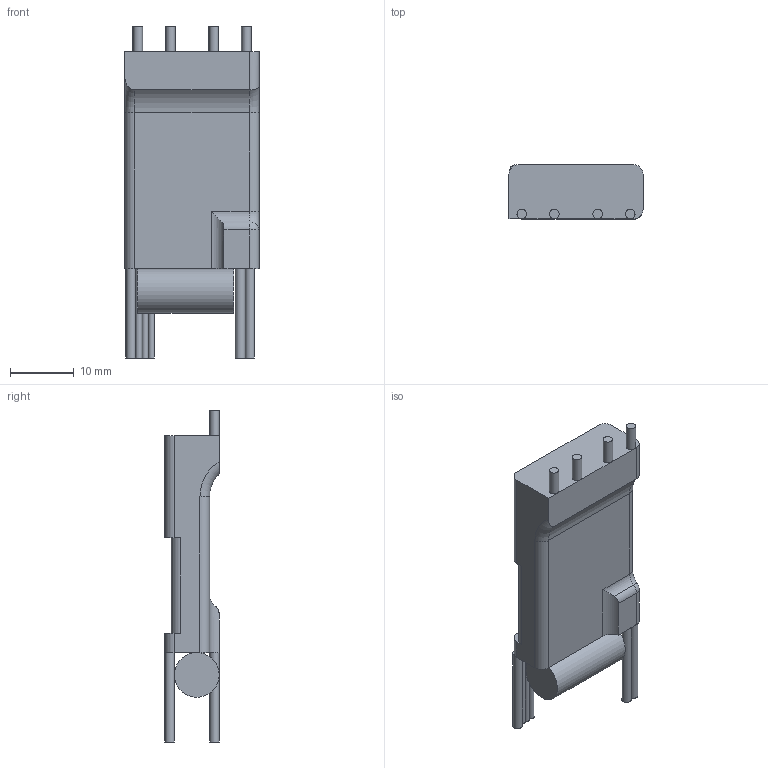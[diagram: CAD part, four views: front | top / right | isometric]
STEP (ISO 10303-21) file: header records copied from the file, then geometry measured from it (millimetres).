
FILE_DESCRIPTION(/* description */ (''),/* implementation_level */ '2;1');
FILE_NAME(/* name */ 'RPR DUAL 5A ESC v2.step',/* time_stamp */ '2023-08-13T11:22:53+02:00',/* author */ (''),/* organization */ (''),/* preprocessor_version */ 'ST-DEVELOPER v20',/* originating_system */ 'Autodesk Translation Framework v12.9.0.99',/* authorisation */ '');
FILE_SCHEMA (('AUTOMOTIVE_DESIGN { 1 0 10303 214 3 1 1 }'));
Length unit declared in the file: millimetre
Products named in the file (1): RPR DUAL 5A ESC
Bounding box: 21 x 8.5 x 52 mm (x, y, z)
Volume: 5573 mm3; surface area: 3067 mm2
Topology: 8 solids, 8 shells, 642 faces, 1741 edges, 1157 vertices
Faces by surface type: bspline 390, plane 218, cylinder 30, torus 3, sphere 1
Full cylindrical faces by diameter (mm): 1.5 x5
Entity records: 23784 total; most frequent: CARTESIAN_POINT 10203, ORIENTED_EDGE 3484, EDGE_CURVE 1742, DIRECTION 1530, VERTEX_POINT 1159, LINE 894, VECTOR 894, B_SPLINE_CURVE_WITH_KNOTS 783
